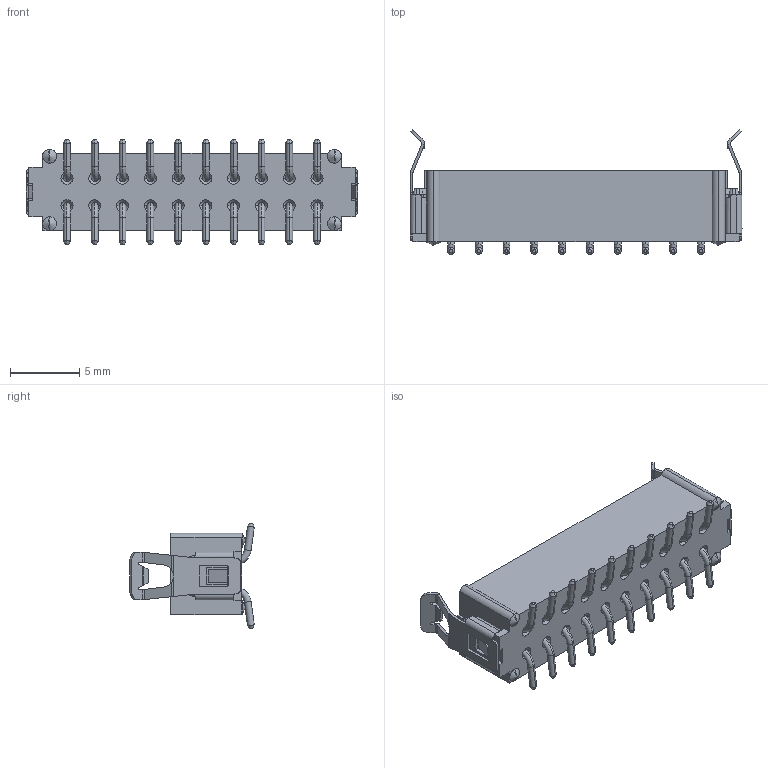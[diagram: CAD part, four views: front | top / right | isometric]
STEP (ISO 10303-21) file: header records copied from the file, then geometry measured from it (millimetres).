
FILE_DESCRIPTION((''),'2;1');
FILE_NAME('M80-82618XX_ASM','2011-09-09T',('wbourne'),(''),'PRO/ENGINEER BY PARAMETRIC TECHNOLOGY CORPORATION, 2010280','PRO/ENGINEER BY PARAMETRIC TECHNOLOGY CORPORATION, 2010280','');
FILE_SCHEMA(('CONFIG_CONTROL_DESIGN','SHAPE_APPEARANCE_LAYERS_GROUPS'));
Length unit declared in the file: millimetre
Products named in the file (4): M80-1021898_SEPARATE_ROWS; M80-827XX05-PIN; M80-001XXXX; M80-82618XX_ASM
Assembly tree (23 placements, depth 2):
  M80-82618XX_ASM
    M80-1021898_SEPARATE_ROWS
    M80-827XX05-PIN  x20
    M80-001XXXX  x2
Bounding box: 23.9 x 8.96 x 7.56 mm (x, y, z)
Volume: 372.5 mm3; surface area: 1141.7 mm2
Topology: 23 solids, 23 shells, 869 faces, 2076 edges, 1282 vertices
Faces by surface type: plane 393, cylinder 212, cone 144, bspline 80, torus 40
Entity records: 12598 total; most frequent: CARTESIAN_POINT 2054, DIRECTION 1671, ORIENTED_EDGE 1614, PRESENTATION_STYLE_ASSIGNMENT 817, STYLED_ITEM 810, CURVE_STYLE 807, EDGE_CURVE 807, AXIS2_PLACEMENT_3D 579
